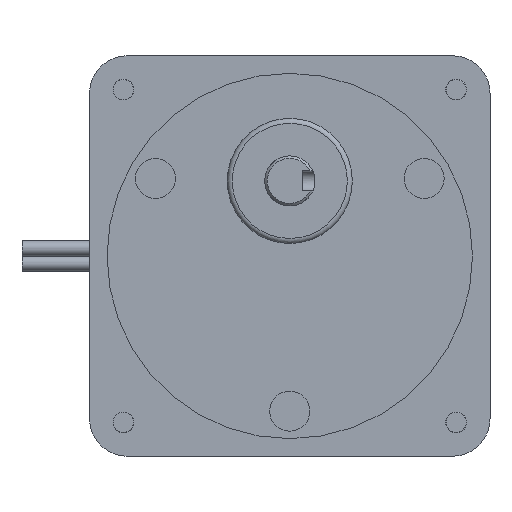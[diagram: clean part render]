
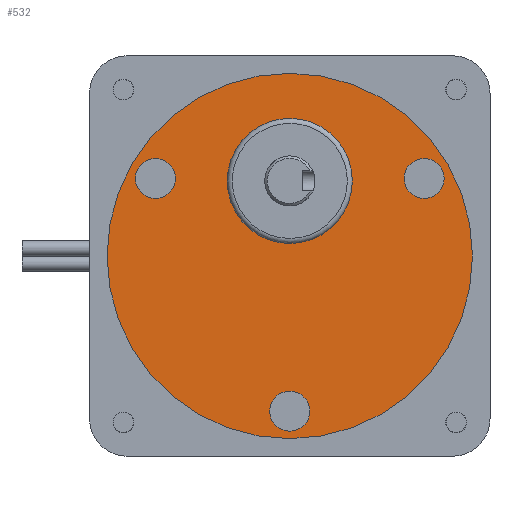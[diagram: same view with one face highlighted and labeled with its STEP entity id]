
A CAD part, front view. The second image highlights one B-rep face of the part: STEP entity #532.
In plain terms, the highlighted planar face has unit normal (0, -1, 0).
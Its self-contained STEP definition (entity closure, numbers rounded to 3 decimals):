
#392=CARTESIAN_POINT('',(24.847,0.5,18.964));
#393=VERTEX_POINT('',#392);
#394=CARTESIAN_POINT('',(26.847,0.5,15.5));
#395=DIRECTION('',(0.0,1.0,0.0));
#396=DIRECTION('',(0.5,0.0,-0.866));
#397=AXIS2_PLACEMENT_3D('',#394,#395,#396);
#398=CIRCLE('',#397,4.);
#399=EDGE_CURVE('',#393,#393,#398,.T.);
#429=CARTESIAN_POINT('',(-28.847,0.5,12.036));
#430=VERTEX_POINT('',#429);
#431=CARTESIAN_POINT('',(-26.847,0.5,15.5));
#432=DIRECTION('',(0.0,1.,0.0));
#433=DIRECTION('',(0.5,0.0,0.866));
#434=AXIS2_PLACEMENT_3D('',#431,#432,#433);
#435=CIRCLE('',#434,4.0);
#436=EDGE_CURVE('',#430,#430,#435,.T.);
#466=CARTESIAN_POINT('',(4.0,0.5,-31.0));
#467=VERTEX_POINT('',#466);
#468=CARTESIAN_POINT('',(0.0,0.5,-31.0));
#469=DIRECTION('',(0.0,1.0,0.0));
#470=DIRECTION('',(-1.0,0.0,0.0));
#471=AXIS2_PLACEMENT_3D('',#468,#469,#470);
#472=CIRCLE('',#471,4.0);
#473=EDGE_CURVE('',#467,#467,#472,.T.);
#492=CARTESIAN_POINT('',(36.5,0.5,0.));
#493=VERTEX_POINT('',#492);
#494=CARTESIAN_POINT('',(0.0,0.5,0.0));
#495=DIRECTION('',(0.0,-1.0,0.0));
#496=DIRECTION('',(-1.0,0.0,0.0));
#497=AXIS2_PLACEMENT_3D('',#494,#495,#496);
#498=CIRCLE('',#497,36.5);
#499=EDGE_CURVE('',#493,#493,#498,.T.);
#515=CARTESIAN_POINT('',(0.0,0.5,0.0));
#516=DIRECTION('',(0.0,1.0,0.0));
#517=DIRECTION('',(0.0,0.0,1.0));
#518=AXIS2_PLACEMENT_3D('',#515,#516,#517);
#519=PLANE('',#518);
#520=ORIENTED_EDGE('',*,*,#499,.T.);
#521=EDGE_LOOP('',(#520));
#522=FACE_OUTER_BOUND('',#521,.T.);
#523=ORIENTED_EDGE('',*,*,#399,.T.);
#524=EDGE_LOOP('',(#523));
#525=FACE_BOUND('',#524,.T.);
#526=ORIENTED_EDGE('',*,*,#436,.T.);
#527=EDGE_LOOP('',(#526));
#528=FACE_BOUND('',#527,.T.);
#529=ORIENTED_EDGE('',*,*,#473,.T.);
#530=EDGE_LOOP('',(#529));
#531=FACE_BOUND('',#530,.T.);
#532=ADVANCED_FACE('',(#522,#525,#528,#531),#519,.F.);
